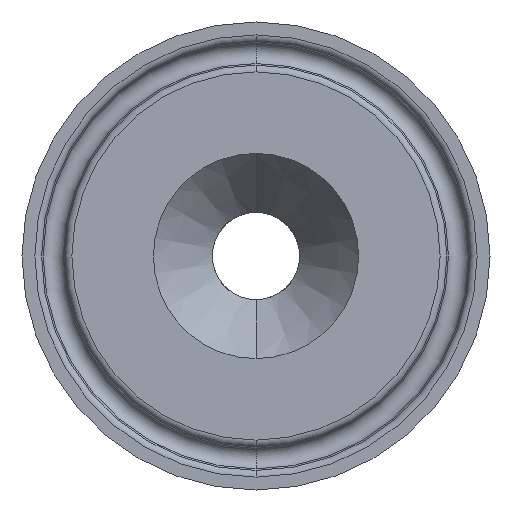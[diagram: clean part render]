
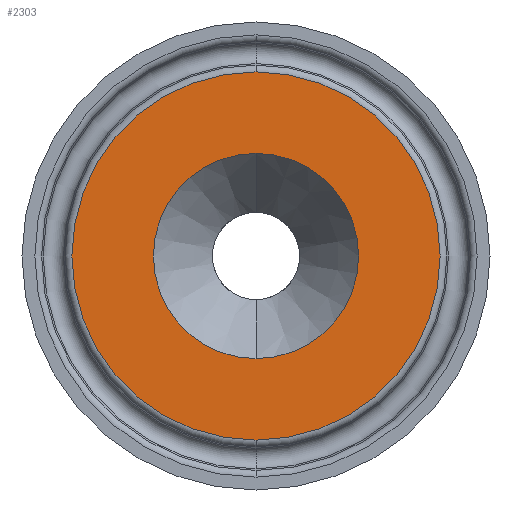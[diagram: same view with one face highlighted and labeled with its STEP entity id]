
A CAD part, front view. The second image highlights one B-rep face of the part: STEP entity #2303.
In plain terms, the highlighted planar face has unit normal (0, -1, 0).
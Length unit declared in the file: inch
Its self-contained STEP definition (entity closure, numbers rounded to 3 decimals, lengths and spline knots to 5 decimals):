
#194 = DIRECTION ( 'NONE',  ( 0., 0., 1. ) ) ;
#312 = CIRCLE ( 'NONE', #7583, 0.78063 ) ;
#465 = CIRCLE ( 'NONE', #2382, 0.435 ) ;
#473 = AXIS2_PLACEMENT_3D ( 'NONE', #5625, #2481, #194 ) ;
#802 = ORIENTED_EDGE ( 'NONE', *, *, #3308, .F. ) ;
#827 = DIRECTION ( 'NONE',  ( 0., 0., -1. ) ) ;
#876 = EDGE_CURVE ( 'NONE', #3071, #3345, #465, .T. ) ;
#1421 = DIRECTION ( 'NONE',  ( 0., -1., 0. ) ) ;
#1512 = ORIENTED_EDGE ( 'NONE', *, *, #3753, .T. ) ;
#1743 = CIRCLE ( 'NONE', #7358, 0.78063 ) ;
#1847 = EDGE_LOOP ( 'NONE', ( #4664, #802 ) ) ;
#1953 = DIRECTION ( 'NONE',  ( 0., -1., 0. ) ) ;
#2028 = PLANE ( 'NONE',  #473 ) ;
#2067 = DIRECTION ( 'NONE',  ( 0., -1., 0. ) ) ;
#2122 = CIRCLE ( 'NONE', #2638, 0.435 ) ;
#2303 = ADVANCED_FACE ( 'NONE', ( #5023, #4952 ), #2028, .F. ) ;
#2382 = AXIS2_PLACEMENT_3D ( 'NONE', #5488, #3691, #6793 ) ;
#2481 = DIRECTION ( 'NONE',  ( 0., 1., 0. ) ) ;
#2498 = EDGE_CURVE ( 'NONE', #3008, #5224, #1743, .T. ) ;
#2558 = CARTESIAN_POINT ( 'NONE',  ( 0., 0., 0. ) ) ;
#2638 = AXIS2_PLACEMENT_3D ( 'NONE', #2712, #1421, #827 ) ;
#2712 = CARTESIAN_POINT ( 'NONE',  ( 0., 0., 0. ) ) ;
#3008 = VERTEX_POINT ( 'NONE', #4472 ) ;
#3071 = VERTEX_POINT ( 'NONE', #7546 ) ;
#3221 = CARTESIAN_POINT ( 'NONE',  ( 0., 0., -0.78063 ) ) ;
#3262 = CARTESIAN_POINT ( 'NONE',  ( 0., 0., 0.435 ) ) ;
#3308 = EDGE_CURVE ( 'NONE', #3345, #3071, #2122, .T. ) ;
#3345 = VERTEX_POINT ( 'NONE', #3262 ) ;
#3691 = DIRECTION ( 'NONE',  ( 0., -1., 0. ) ) ;
#3753 = EDGE_CURVE ( 'NONE', #5224, #3008, #312, .T. ) ;
#4472 = CARTESIAN_POINT ( 'NONE',  ( 0., 0., 0.78063 ) ) ;
#4664 = ORIENTED_EDGE ( 'NONE', *, *, #876, .F. ) ;
#4777 = CARTESIAN_POINT ( 'NONE',  ( 0., 0., 0. ) ) ;
#4926 = ORIENTED_EDGE ( 'NONE', *, *, #2498, .T. ) ;
#4952 = FACE_OUTER_BOUND ( 'NONE', #5611, .T. ) ;
#5023 = FACE_BOUND ( 'NONE', #1847, .T. ) ;
#5224 = VERTEX_POINT ( 'NONE', #3221 ) ;
#5488 = CARTESIAN_POINT ( 'NONE',  ( 0., 0., 0. ) ) ;
#5611 = EDGE_LOOP ( 'NONE', ( #1512, #4926 ) ) ;
#5625 = CARTESIAN_POINT ( 'NONE',  ( -0.78063, 0., 0. ) ) ;
#5892 = DIRECTION ( 'NONE',  ( 0., 0., -1. ) ) ;
#6086 = DIRECTION ( 'NONE',  ( 0., 0., -1. ) ) ;
#6793 = DIRECTION ( 'NONE',  ( 0., 0., -1. ) ) ;
#7358 = AXIS2_PLACEMENT_3D ( 'NONE', #4777, #2067, #5892 ) ;
#7546 = CARTESIAN_POINT ( 'NONE',  ( 0., 0., -0.435 ) ) ;
#7583 = AXIS2_PLACEMENT_3D ( 'NONE', #2558, #1953, #6086 ) ;
